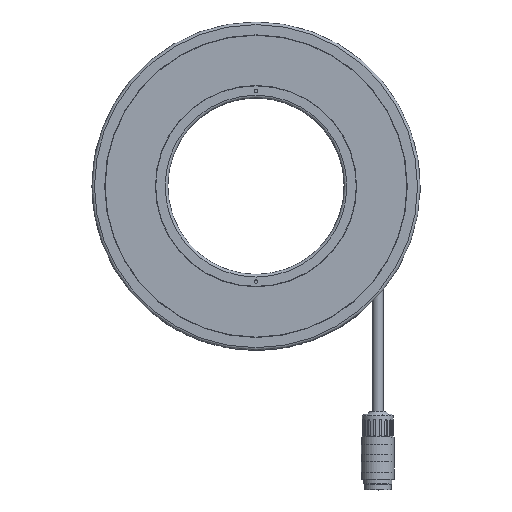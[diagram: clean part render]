
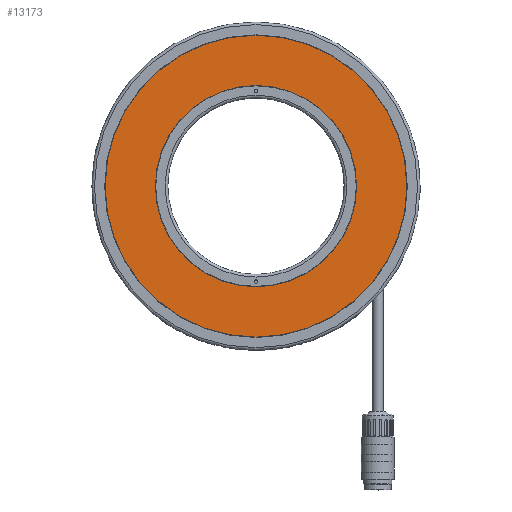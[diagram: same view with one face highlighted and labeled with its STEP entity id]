
A CAD part, top view. The second image highlights one B-rep face of the part: STEP entity #13173.
In plain terms, the highlighted planar face has unit normal (0, 0, 1).
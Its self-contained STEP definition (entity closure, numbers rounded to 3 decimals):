
#3722=ORIENTED_EDGE('',*,*,#4252,.F.);
#3723=ORIENTED_EDGE('',*,*,#4235,.T.);
#4235=EDGE_CURVE('',#5478,#5478,#6366,.T.);
#4252=EDGE_CURVE('',#5495,#5495,#6383,.T.);
#5478=VERTEX_POINT('',#17119);
#5495=VERTEX_POINT('',#17171);
#6366=CIRCLE('',#13346,57.);
#6383=CIRCLE('',#13381,85.5);
#7459=EDGE_LOOP('',(#3722));
#7460=EDGE_LOOP('',(#3723));
#8268=FACE_BOUND('',#7459,.T.);
#8269=FACE_BOUND('',#7460,.T.);
#8622=PLANE('',#14169);
#13173=ADVANCED_FACE('',(#8268,#8269),#8622,.T.);
#13346=AXIS2_PLACEMENT_3D('',#17118,#14449,#14450);
#13381=AXIS2_PLACEMENT_3D('',#17170,#14519,#14520);
#14169=AXIS2_PLACEMENT_3D('',#25089,#16486,#16487);
#14449=DIRECTION('',(0.,0.,-1.));
#14450=DIRECTION('',(-1.,0.,0.));
#14519=DIRECTION('',(0.,0.,-1.));
#14520=DIRECTION('',(-1.,0.,0.));
#16486=DIRECTION('',(0.,0.,1.));
#16487=DIRECTION('',(0.924,0.383,0.));
#17118=CARTESIAN_POINT('',(0.,0.,27.5));
#17119=CARTESIAN_POINT('',(-57.,0.,27.5));
#17170=CARTESIAN_POINT('',(0.,0.,27.5));
#17171=CARTESIAN_POINT('',(-85.5,0.,27.5));
#25089=CARTESIAN_POINT('',(0.,0.,27.5));
